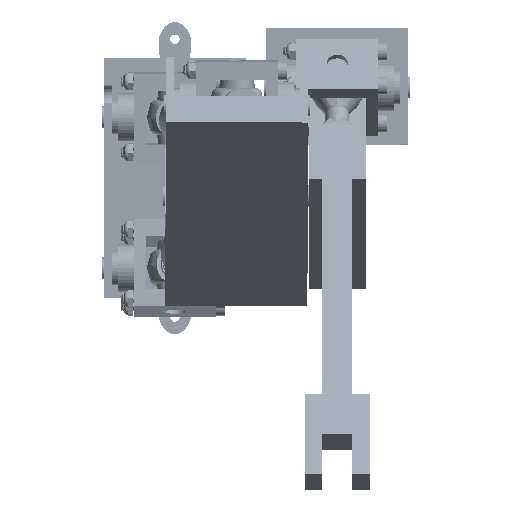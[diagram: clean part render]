
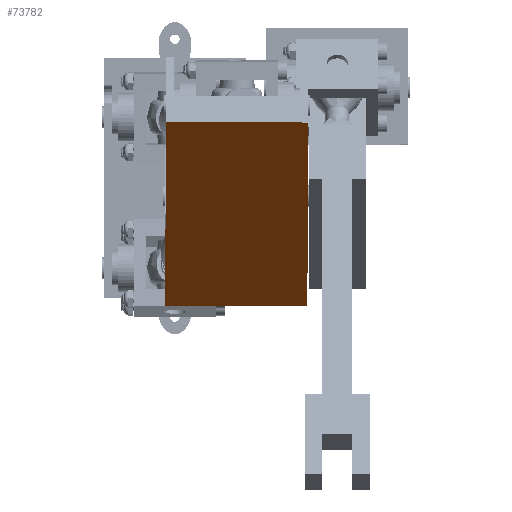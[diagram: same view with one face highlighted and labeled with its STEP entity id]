
A CAD part, top view. The second image highlights one B-rep face of the part: STEP entity #73782.
In plain terms, the highlighted planar face has unit normal (0, -0.848, 0.53) as drawn and (0, 0, -1) by its records, which use the part's own axes.
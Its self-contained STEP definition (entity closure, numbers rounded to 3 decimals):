
#8730=PLANE('',#79939);
#9710=FACE_OUTER_BOUND('',#14320,.T.);
#14320=EDGE_LOOP('',(#48056,#48057,#48058,#48059));
#19359=LINE('',#103548,#23006);
#19360=LINE('',#103550,#23007);
#19361=LINE('',#103552,#23008);
#19362=LINE('',#103553,#23009);
#23006=VECTOR('',#86624,10.);
#23007=VECTOR('',#86625,10.);
#23008=VECTOR('',#86626,10.);
#23009=VECTOR('',#86627,10.);
#28845=VERTEX_POINT('',#103546);
#28846=VERTEX_POINT('',#103547);
#28847=VERTEX_POINT('',#103549);
#28848=VERTEX_POINT('',#103551);
#36355=EDGE_CURVE('',#28845,#28846,#19359,.T.);
#36356=EDGE_CURVE('',#28845,#28847,#19360,.T.);
#36357=EDGE_CURVE('',#28848,#28847,#19361,.T.);
#36358=EDGE_CURVE('',#28846,#28848,#19362,.T.);
#48056=ORIENTED_EDGE('',*,*,#36355,.F.);
#48057=ORIENTED_EDGE('',*,*,#36356,.T.);
#48058=ORIENTED_EDGE('',*,*,#36357,.F.);
#48059=ORIENTED_EDGE('',*,*,#36358,.F.);
#73782=ADVANCED_FACE('',(#9710),#8730,.F.);
#79939=AXIS2_PLACEMENT_3D('',#103545,#86622,#86623);
#86622=DIRECTION('center_axis',(0.,0.,
1.));
#86623=DIRECTION('ref_axis',(1.,0.,0.));
#86624=DIRECTION('',(-0.004,1.,0.));
#86625=DIRECTION('',(-1.,-0.004,0.));
#86626=DIRECTION('',(0.004,-1.,0.));
#86627=DIRECTION('',(-1.,-0.004,0.));
#103545=CARTESIAN_POINT('Origin',(-287.869,400.739,-307.081));
#103546=CARTESIAN_POINT('',(-275.677,358.748,-307.081));
#103547=CARTESIAN_POINT('',(-275.889,417.327,-307.081));
#103548=CARTESIAN_POINT('',(-275.865,410.627,-307.081));
#103549=CARTESIAN_POINT('',(-299.756,358.661,-307.081));
#103550=CARTESIAN_POINT('',(-293.737,358.683,-307.081));
#103551=CARTESIAN_POINT('',(-299.969,417.24,-307.081));
#103552=CARTESIAN_POINT('',(-299.944,410.54,-307.081));
#103553=CARTESIAN_POINT('',(-287.929,417.283,-307.081));
